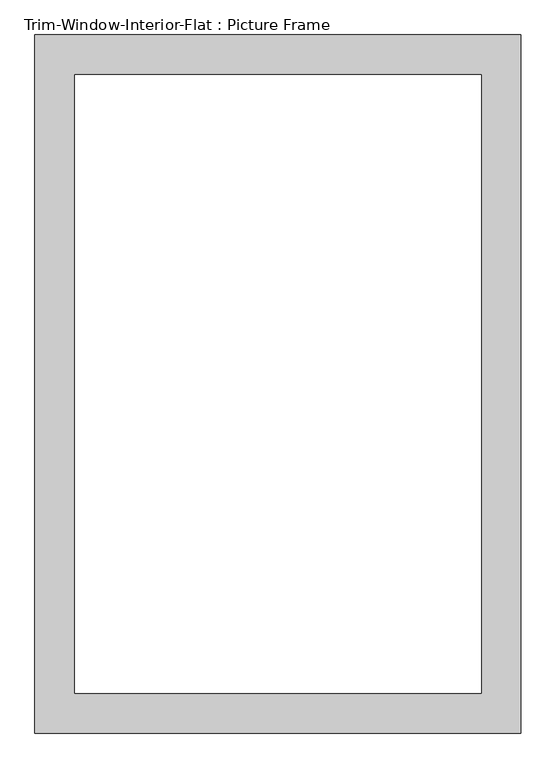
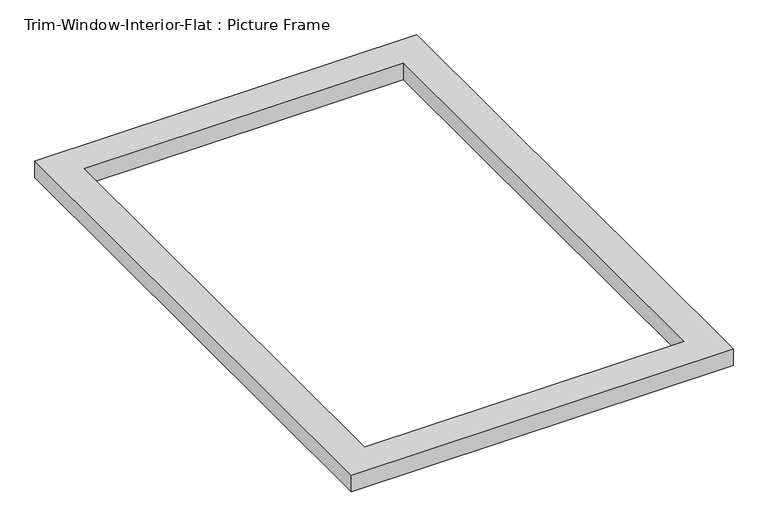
"""IFC4 building model written with IfcOpenShell, lengths in millimetres: proxy geometry, Trim-Window-Interior-Flat : Picture Frame."""

import ifcopenshell
import ifcopenshell.guid

model = None  # the IFC model being written
_history = None  # IfcOwnerHistory: only IFC2X3 demands one
_inside = {}  # id of a spatial element -> (the spatial element, [elements in it])
_under = {}  # id of a project, library or spatial element -> (it, [spatial elements below it])
_declared = {}  # id of a project -> (the project, [libraries it declares])
_typed = {}  # id of a type object -> (the type object, [elements of that type])
_made_of = {}  # id of a material, layer set ... -> (it, [elements and type objects made of it])


def new_model(schema):
    """Start an empty IFC model of exactly this schema.

    Asked for "IFC4X3", IfcOpenShell would pick the latest addendum, in which some entities
    have other attributes; the version numbers below select the first issue.
    IFC2X3 requires an IfcOwnerHistory on every rooted entity: one is made here for all.
    """
    global model, _history
    if schema == "IFC4X3":
        model = ifcopenshell.file(schema_version=(4, 3, 0, 0))
    else:
        model = ifcopenshell.file(schema=schema)
    _inside.clear()
    _under.clear()
    _declared.clear()
    _typed.clear()
    _made_of.clear()
    _history = None
    if model.schema == "IFC2X3":
        org = make("IfcOrganization", Name="unknown")
        user = make(
            "IfcPersonAndOrganization",
            ThePerson=make("IfcPerson", FamilyName="unknown"),
            TheOrganization=org,
        )
        app = make(
            "IfcApplication",
            ApplicationDeveloper=org,
            Version="unknown",
            ApplicationFullName="unknown",
            ApplicationIdentifier="unknown",
        )
        _history = make(
            "IfcOwnerHistory",
            OwningUser=user,
            OwningApplication=app,
            ChangeAction="ADDED",
            CreationDate=0,
        )
    return model


def make(cls, **values):
    """One entity of the class cls with the attributes given. An attribute that is None is left unset."""
    return model.create_entity(
        cls, **{name: value for name, value in values.items() if value is not None}
    )


def rooted(cls, **values):
    """An entity with a GlobalId (a new one), such as an element, a storey or a relation."""
    return make(cls, GlobalId=ifcopenshell.guid.new(), OwnerHistory=_history, **values)


def si_unit(unit_type, name, prefix=None):
    """IfcSIUnit, for example si_unit("LENGTHUNIT", "METRE", prefix="MILLI")."""
    return make("IfcSIUnit", UnitType=unit_type, Prefix=prefix, Name=name)


def assignment(units):
    """IfcUnitAssignment: the units of a project."""
    return None if units is None else make("IfcUnitAssignment", Units=units)


def point(xyz):
    """IfcCartesianPoint."""
    return None if xyz is None else make("IfcCartesianPoint", Coordinates=xyz)


def direction(xyz):
    """IfcDirection."""
    return None if xyz is None else make("IfcDirection", DirectionRatios=xyz)


def frame(location, z_axis=None, x_axis=None):
    """IfcAxis2Placement3D, a coordinate frame: its origin and axes. An axis left out is left unset."""
    return make(
        "IfcAxis2Placement3D",
        Location=point(location),
        Axis=direction(z_axis),
        RefDirection=direction(x_axis),
    )


def origin():
    """The frame at (0, 0, 0) with its axes left unset."""
    return frame((0.0, 0.0, 0.0))


def origin_with_axes():
    """The frame at (0, 0, 0) with the z axis (0, 0, 1) and the x axis (1, 0, 0) written out."""
    return frame((0.0, 0.0, 0.0), z_axis=(0.0, 0.0, 1.0), x_axis=(1.0, 0.0, 0.0))


def place(relative_to, where):
    """IfcLocalPlacement: puts the frame where relative to a parent placement (None: the world)."""
    return make(
        "IfcLocalPlacement", PlacementRelTo=relative_to, RelativePlacement=where
    )


def context(
    kind, dimensions, precision=None, world=None, true_north=None, identifier=None
):
    """IfcGeometricRepresentationContext, for example the 3D "Model" context."""
    return make(
        "IfcGeometricRepresentationContext",
        ContextIdentifier=identifier,
        ContextType=kind,
        CoordinateSpaceDimension=dimensions,
        Precision=precision,
        WorldCoordinateSystem=world,
        TrueNorth=true_north,
    )


def project(units=None, contexts=None):
    """IfcProject with its units and contexts."""
    return rooted(
        "IfcProject",
        Name="project",
        RepresentationContexts=contexts,
        UnitsInContext=assignment(units),
    )


def spatial(cls, under=None, at=None, **own):
    """A site, building, storey or space (cls), placed at a placement, below another one or the project."""
    s = rooted(cls, ObjectPlacement=at, **own)
    if under is not None:
        _under.setdefault(under.id(), (under, []))[1].append(s)
    return s


def polyline(points):
    """IfcPolyline through the points."""
    return make("IfcPolyline", Points=[point(p) for p in points])


def outline(outer, holes=None, kind="AREA"):
    """IfcArbitraryClosedProfileDef: a profile drawn as a closed curve; with holes, ...WithVoids."""
    if holes is None:
        return make("IfcArbitraryClosedProfileDef", ProfileType=kind, OuterCurve=outer)
    return make(
        "IfcArbitraryProfileDefWithVoids",
        ProfileType=kind,
        OuterCurve=outer,
        InnerCurves=holes,
    )


def extrude(swept, where, along, depth):
    """IfcExtrudedAreaSolid: the profile swept, set in the frame where, extruded along a direction by depth."""
    return make(
        "IfcExtrudedAreaSolid",
        SweptArea=swept,
        Position=where,
        ExtrudedDirection=direction(along),
        Depth=depth,
    )


def shape(context_of_items, identifier, shape_type, items):
    """IfcShapeRepresentation: the items that make up one representation, for example the "Body"."""
    return make(
        "IfcShapeRepresentation",
        ContextOfItems=context_of_items,
        RepresentationIdentifier=identifier,
        RepresentationType=shape_type,
        Items=items,
    )


def source(mapping_origin, context_of_items, identifier, shape_type, items):
    """IfcRepresentationMap: a shape defined once, which mapped items show again and again."""
    return make(
        "IfcRepresentationMap",
        MappingOrigin=mapping_origin,
        MappedRepresentation=shape(context_of_items, identifier, shape_type, items),
    )


def transform(
    local_origin,
    x_axis=None,
    y_axis=None,
    z_axis=None,
    scale=None,
    scale2=None,
    scale3=None,
    uniform=True,
):
    """IfcCartesianTransformationOperator3D, or its non-uniform kind. x_axis, y_axis, z_axis: its Axis1, 2, 3."""
    if uniform:
        return make(
            "IfcCartesianTransformationOperator3D",
            Axis1=direction(x_axis),
            Axis2=direction(y_axis),
            LocalOrigin=point(local_origin),
            Scale=scale,
            Axis3=direction(z_axis),
        )
    return make(
        "IfcCartesianTransformationOperator3DnonUniform",
        Axis1=direction(x_axis),
        Axis2=direction(y_axis),
        LocalOrigin=point(local_origin),
        Scale=scale,
        Axis3=direction(z_axis),
        Scale2=scale2,
        Scale3=scale3,
    )


def mapped(mapping_source, mapping_target):
    """IfcMappedItem: shows the shape of a source again, moved by a transform."""
    return make(
        "IfcMappedItem", MappingSource=mapping_source, MappingTarget=mapping_target
    )


def made_of(thing, what):
    """Note that an element or type object is made of a material, layer set ...; save() writes the relation."""
    if what is not None:
        _made_of.setdefault(what.id(), (what, []))[1].append(thing)
    return thing


def element(
    cls,
    number,
    at=None,
    inside=None,
    cuts=None,
    type_object=None,
    material=None,
    context=None,
    identifier="Body",
    shape_type=None,
    held_by="IfcProductDefinitionShape",
    body=None,
    shapes=None,
    **own,
):
    """One element of the class cls, such as IfcWall. Its Tag is "e" and its number.

    at: its placement. inside: the storey or other place that contains it. cuts: it is an
    opening in that element (IfcRelVoidsElement). A single representation is given by context,
    identifier, shape_type and body (its items); several are given by shapes. held_by: the class
    of the entity that holds the representations. save() writes the other relations.
    """
    e = rooted(cls, Tag="e%d" % number, ObjectPlacement=at, **own)
    if body is not None:
        shapes = [shape(context, identifier, shape_type, body)]
    if shapes is not None:
        e.Representation = make(held_by, Representations=shapes)
    if inside is not None:
        _inside.setdefault(inside.id(), (inside, []))[1].append(e)
    if cuts is not None:
        rooted(
            "IfcRelVoidsElement", RelatingBuildingElement=cuts, RelatedOpeningElement=e
        )
    if type_object is not None:
        _typed.setdefault(type_object.id(), (type_object, []))[1].append(e)
    return made_of(e, material)


def aggregate(whole, parts):
    """IfcRelAggregates: a whole, such as a stair, and the parts it consists of."""
    return rooted("IfcRelAggregates", RelatingObject=whole, RelatedObjects=parts)


def save(model, path):
    """Write the relations noted so far, then the file.

    IfcRelAggregates (storeys below a building ...), IfcRelContainedInSpatialStructure (elements
    in a storey), IfcRelDefinesByType, IfcRelAssociatesMaterial and IfcRelDeclares: one each for
    every whole, place, type object, material and project.
    """
    for whole, parts in _under.values():
        aggregate(whole, parts)
    for where, things in _inside.values():
        rooted(
            "IfcRelContainedInSpatialStructure",
            RelatedElements=things,
            RelatingStructure=where,
        )
    for kind, things in _typed.values():
        rooted("IfcRelDefinesByType", RelatedObjects=things, RelatingType=kind)
    for what, things in _made_of.values():
        rooted("IfcRelAssociatesMaterial", RelatedObjects=things, RelatingMaterial=what)
    for by, libraries in _declared.values():
        rooted("IfcRelDeclares", RelatingContext=by, RelatedDefinitions=libraries)
    model.write(path)


def trim_window_interior_flat_picture_frame_d485c387(model_context):
    return source(origin(), model_context, "Body", "SweptSolid", [
        extrude(outline(polyline([(349.25, 44.45), (349.25, -958.85), (-349.25, -958.85), (-349.25, 44.45), (349.25, 44.45)]), holes=[polyline([(292.1, -12.7), (-292.1, -12.7), (-292.1, -901.7), (292.1, -901.7), (292.1, -12.7)])]), origin_with_axes(), (0.0, 0.0, 1.0), 31.75),
    ])


if __name__ == "__main__":
    model = new_model("IFC4")
    model_context = context("Model", 3, world=origin())
    ifc_project = project(units=[si_unit("LENGTHUNIT", "METRE", prefix="MILLI")], contexts=[model_context])
    site = spatial("IfcSite", under=ifc_project)
    building = spatial("IfcBuilding", under=site)
    placement = place(None, origin())
    trim_window_interior_flat_picture_frame_shape = trim_window_interior_flat_picture_frame_d485c387(model_context)
    element("IfcBuildingElementProxy", 1, Name="Trim-Window-Interior-Flat : Picture Frame", ObjectType="Trim-Window-Interior-Flat : Picture Frame", at=placement, inside=building, context=model_context, shape_type="MappedRepresentation", body=[
        mapped(trim_window_interior_flat_picture_frame_shape, transform((0.0, 0.0, 0.0), x_axis=(1.0, 0.0, 0.0), y_axis=(0.0, 1.0, 0.0), z_axis=(0.0, 0.0, 1.0))),
    ])
    save(model, "model.ifc")
